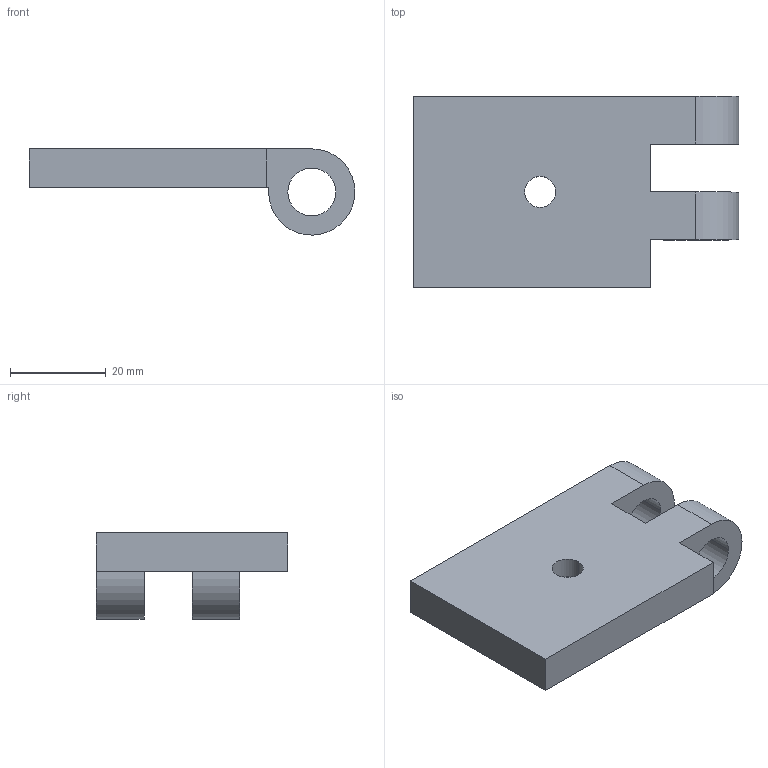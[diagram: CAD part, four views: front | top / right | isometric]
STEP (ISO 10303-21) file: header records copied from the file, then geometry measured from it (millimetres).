
FILE_DESCRIPTION((''),'2;1');
FILE_NAME('CE60_1','2002-12-27T',('Lipro doo'),('Lipro d.o.o.'),'PRO/ENGINEER BY PARAMETRIC TECHNOLOGY CORPORATION, 2001150','PRO/ENGINEER BY PARAMETRIC TECHNOLOGY CORPORATION, 2001150','');
FILE_SCHEMA(('CONFIG_CONTROL_DESIGN'));
Length unit declared in the file: millimetre
Products named in the file (1): CE60_1
Bounding box: 68 x 40 x 17.99 mm (x, y, z)
Volume: 19350.4 mm3; surface area: 7789.9 mm2
Topology: 1 solids, 1 shells, 20 faces, 52 edges, 34 vertices
Faces by surface type: plane 10, cylinder 8, cone 2
Entity records: 668 total; most frequent: DIRECTION 110, CARTESIAN_POINT 106, ORIENTED_EDGE 104, EDGE_CURVE 52, AXIS2_PLACEMENT_3D 38, VECTOR 34, LINE 34, VERTEX_POINT 34
